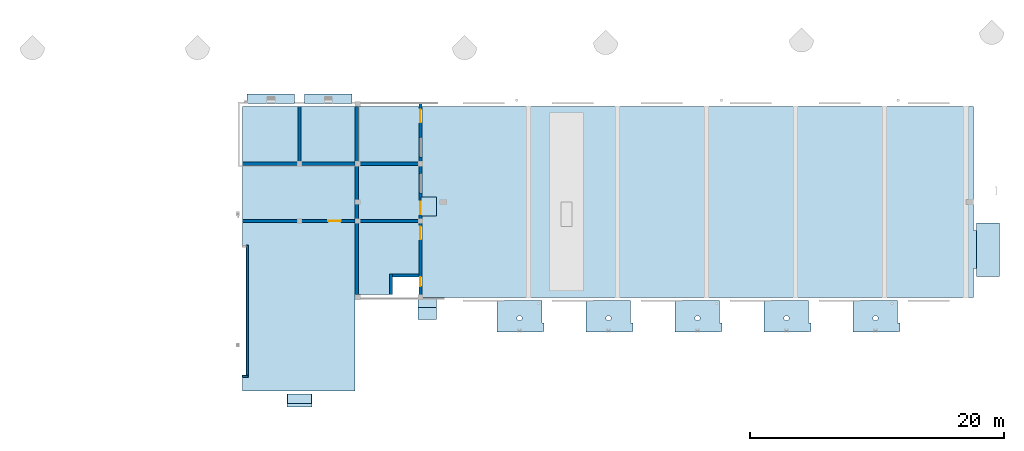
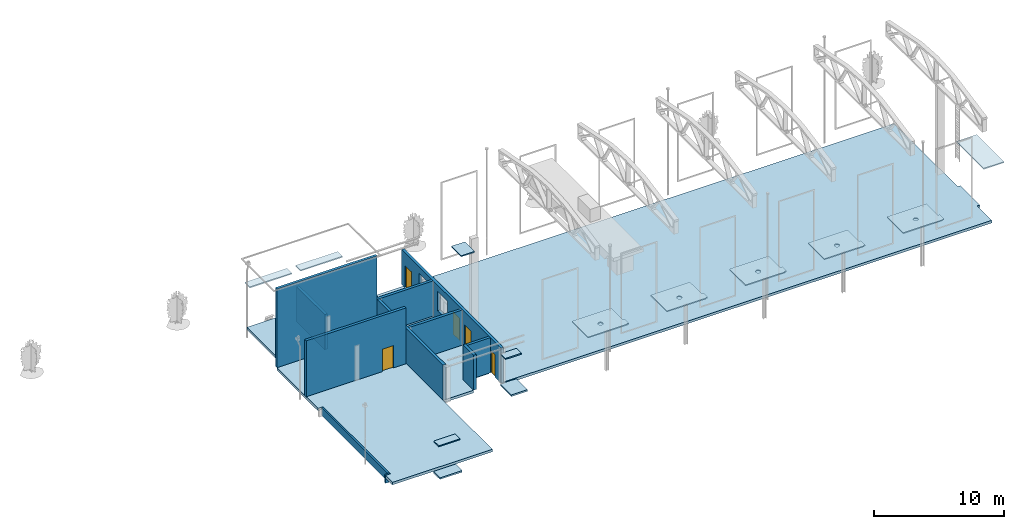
# One storey, part 3 of 14: 17 slabs, 11 walls, 5 doors, 13 openings.
"""IFC2X3 building model written with IfcOpenShell, lengths in millimetres."""

from ifc_helpers import new_model, entity, si_unit, converted_unit, derived_unit, direction, frame, frame_2d, origin, origin_2d_with_axis, place, context, subcontext, project, spatial, polyline, rectangle, circle, outline, extrude, source, transform, mapped, material, material_list, layer, layer_set, layer_usage, type_object, type_shapes, element, fill, save


model = new_model("IFC2X3")

# Units and contexts
model_context = context("Model", 3, precision=0.01, world=origin(), true_north=direction((6.12303176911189e-17, 1.0)))
body_context = subcontext(model_context, "Body", "Model", "MODEL_VIEW")
ifc_project = project(units=[si_unit("LENGTHUNIT", "METRE", prefix="MILLI"), si_unit("AREAUNIT", "SQUARE_METRE"), si_unit("VOLUMEUNIT", "CUBIC_METRE"), converted_unit("PLANEANGLEUNIT", "DEGREE", entity("IfcRatioMeasure", 0.0174532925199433), si_unit("PLANEANGLEUNIT", "RADIAN"), dimensions=[0, 0, 0, 0, 0, 0, 0]), si_unit("MASSUNIT", "GRAM", prefix="KILO"), derived_unit("MASSDENSITYUNIT", [(si_unit("MASSUNIT", "GRAM", prefix="KILO"), 1), (si_unit("LENGTHUNIT", "METRE"), -3)]), si_unit("TIMEUNIT", "SECOND"), si_unit("FREQUENCYUNIT", "HERTZ"), si_unit("THERMODYNAMICTEMPERATUREUNIT", "DEGREE_CELSIUS"), derived_unit("THERMALTRANSMITTANCEUNIT", [(si_unit("MASSUNIT", "GRAM", prefix="KILO"), 1), (si_unit("THERMODYNAMICTEMPERATUREUNIT", "KELVIN"), -1), (si_unit("TIMEUNIT", "SECOND"), -3)]), derived_unit("VOLUMETRICFLOWRATEUNIT", [(si_unit("LENGTHUNIT", "METRE"), 3), (si_unit("TIMEUNIT", "SECOND"), -1)]), si_unit("ELECTRICCURRENTUNIT", "AMPERE"), si_unit("ELECTRICVOLTAGEUNIT", "VOLT"), si_unit("POWERUNIT", "WATT"), si_unit("FORCEUNIT", "NEWTON", prefix="KILO"), si_unit("ILLUMINANCEUNIT", "LUX"), si_unit("LUMINOUSFLUXUNIT", "LUMEN"), si_unit("LUMINOUSINTENSITYUNIT", "CANDELA"), derived_unit("USERDEFINED", [(si_unit("MASSUNIT", "GRAM", prefix="KILO"), -1), (si_unit("LENGTHUNIT", "METRE"), -2), (si_unit("TIMEUNIT", "SECOND"), 3), (si_unit("LUMINOUSFLUXUNIT", "LUMEN"), 1)]), derived_unit("LINEARVELOCITYUNIT", [(si_unit("LENGTHUNIT", "METRE"), 1), (si_unit("TIMEUNIT", "SECOND"), -1)]), si_unit("PRESSUREUNIT", "PASCAL"), derived_unit("USERDEFINED", [(si_unit("LENGTHUNIT", "METRE"), -2), (si_unit("MASSUNIT", "GRAM", prefix="KILO"), 1), (si_unit("TIMEUNIT", "SECOND"), -2)])], contexts=[model_context])

# Site, building, storey
site_placement = place(None, origin())
site = spatial("IfcSite", under=ifc_project, at=site_placement, Name="表面", CompositionType="ELEMENT")
building_placement = place(site_placement, origin())
building = spatial("IfcBuilding", under=site, at=building_placement, CompositionType="ELEMENT")
storey_placement = place(building_placement, origin())
storey = spatial("IfcBuildingStorey", under=building, at=storey_placement, Name="±0.000", CompositionType="ELEMENT", Elevation=0.0)

# Slabs
ifc_material_1 = material(Name="C_砼-沙/水泥找平")
ifc_layer_1 = layer(ifc_material_1, 50.0)
ifc_material_2 = material(Name="C_砼-加气砌块")
ifc_layer_2 = layer(ifc_material_2, 70.0)
ifc_material_3 = material(Name="C_混凝土 - 钢筋混凝土 - 密集")
ifc_layer_3 = layer(ifc_material_3, 120.0)
ifc_layer_set_1 = layer_set([ifc_layer_1, ifc_layer_2, ifc_layer_3], Name="楼板:常规 240 - 50+70+120")
ifc_layer_usage_1 = layer_usage(ifc_layer_set_1, "AXIS3", "POSITIVE", 0.0)
slab_1_placement = place(storey_placement, origin())
element("IfcSlab", 1, at=slab_1_placement, inside=storey, material=ifc_layer_usage_1, Name="楼板:常规 240 - 50+70+120", ObjectType="楼板:常规 240 - 50+70+120", PredefinedType="FLOOR", context=body_context, shape_type="SweptSolid", body=[
    extrude(rectangle(XDim=4380.00000000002, YDim=8879.99999999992, at=frame_2d((0.0, -4.54747350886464e-12), x_axis=(1.0, 0.0))), frame((-43088.798781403, 13419.6974073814, 1000.0), z_axis=(0.0, 0.0, -1.0), x_axis=(0.0, 1.0, 0.0)), (0.0, 0.0, 1.0), 240.0),
])
ifc_layer_usage_2 = layer_usage(ifc_layer_set_1, "AXIS3", "POSITIVE", 0.0)
slab_2_placement = place(storey_placement, origin())
element("IfcSlab", 2, at=slab_2_placement, inside=storey, material=ifc_layer_usage_2, Name="楼板:常规 240 - 50+70+120", ObjectType="楼板:常规 240 - 50+70+120", PredefinedType="FLOOR", context=body_context, shape_type="SweptSolid", body=[
    extrude(rectangle(XDim=4380.00000000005, YDim=4760.00000000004, at=frame_2d((-6.59383658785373e-12, 2.04636307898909e-12), x_axis=(1.0, 0.0))), frame((-36028.798781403, 13419.6974073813, 0.0), z_axis=(0.0, 0.0, -1.0), x_axis=(0.0, 1.0, 0.0)), (0.0, 0.0, 1.0), 240.0),
])
ifc_layer_usage_3 = layer_usage(ifc_layer_set_1, "AXIS3", "POSITIVE", 0.0)
slab_3_placement = place(storey_placement, origin())
element("IfcSlab", 3, at=slab_3_placement, inside=storey, material=ifc_layer_usage_3, Name="楼板:常规 240 - 50+70+120", ObjectType="楼板:常规 240 - 50+70+120", PredefinedType="FLOOR", context=body_context, shape_type="SweptSolid", body=[
    extrude(outline(polyline([(3613.33161497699, -5798.3332687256), (9913.33367700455, -5798.3332687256), (9913.33367700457, 8081.66673127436), (1353.33367700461, 8081.66673127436), (1353.33367700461, 5781.66673127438), (-266.666322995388, 5781.66673127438), (-266.666322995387, 3081.66673127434), (-7846.66632299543, 3081.66673127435), (-7846.66632299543, -5798.33326872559), (-6766.66632299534, -5798.33326872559), (-6766.66632299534, -5348.33365637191), (3613.33161497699, -5348.33365637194), (3613.33161497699, -5798.3332687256)])), frame((-41730.4655126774, 1076.36373037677, 0.0), z_axis=(0.0, 0.0, -1.0), x_axis=(0.0, 1.0, 0.0)), (0.0, 0.0, 1.0), 240.0),
])
ifc_layer_usage_4 = layer_usage(ifc_layer_set_1, "AXIS3", "POSITIVE", 0.0)
slab_4_placement = place(storey_placement, origin())
element("IfcSlab", 4, at=slab_4_placement, inside=storey, material=ifc_layer_usage_4, Name="楼板:常规 240 - 50+70+120", ObjectType="楼板:常规 240 - 50+70+120", PredefinedType="FLOOR", context=body_context, shape_type="SweptSolid", body=[
    extrude(outline(polyline([(-5625.0, -32595.0), (9375.0, -32595.0), (9375.0, 10785.0), (-375.0, 10785.0), (-375.0, 11025.0), (-3375.0, 11025.0), (-3375.0, 10785.0), (-5625.0, 10785.0), (-5625.0, -32595.0)])), frame((-813.798781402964, 6234.69740738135, 0.0), z_axis=(0.0, 0.0, -1.0), x_axis=(0.0, 1.0, 0.0)), (0.0, 0.0, 1.0), 240.0),
])
ifc_layer_4 = layer(ifc_material_1, 20.0)
ifc_layer_5 = layer(ifc_material_3, 80.0)
ifc_layer_set_2 = layer_set([ifc_layer_4, ifc_layer_5], Name="楼板:室外雨篷")
ifc_layer_usage_5 = layer_usage(ifc_layer_set_2, "AXIS3", "POSITIVE", 0.0)
slab_5_placement = place(storey_placement, origin())
element("IfcSlab", 5, at=slab_5_placement, inside=storey, material=ifc_layer_usage_5, Name="楼板:室外雨篷", ObjectType="楼板:室外雨篷", PredefinedType="FLOOR", context=body_context, shape_type="SweptSolid", body=[
    extrude(rectangle(XDim=744.999999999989, YDim=3740.0, at=frame_2d((1.08002495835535e-12, 0.0), x_axis=(1.0, 0.0))), frame((-45278.798781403, 16222.1974073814, 4500.0), z_axis=(0.0, 0.0, -1.0), x_axis=(0.0, 1.0, 0.0)), (0.0, 0.0, 1.0), 100.0),
])
ifc_layer_usage_6 = layer_usage(ifc_layer_set_2, "AXIS3", "POSITIVE", 0.0)
slab_6_placement = place(storey_placement, origin())
element("IfcSlab", 6, at=slab_6_placement, inside=storey, material=ifc_layer_usage_6, Name="楼板:室外雨篷", ObjectType="楼板:室外雨篷", PredefinedType="FLOOR", context=body_context, shape_type="SweptSolid", body=[
    extrude(rectangle(XDim=744.999999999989, YDim=3740.0, at=frame_2d((1.08002495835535e-12, 0.0), x_axis=(1.0, 0.0))), frame((-40779.7988817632, 16222.1974073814, 4500.0), z_axis=(0.0, 0.0, -1.0), x_axis=(0.0, 1.0, 0.0)), (0.0, 0.0, 1.0), 100.0),
])
ifc_material_4 = material(Name="C_保温-聚苯")
ifc_layer_6 = layer(ifc_material_4, 30.0)
ifc_material_5 = material(Name="C_混凝土 - 轻集料混凝土 - 密集")
ifc_layer_7 = layer(ifc_material_5, 120.0)
ifc_layer_set_3 = layer_set([ifc_layer_6, ifc_layer_7], Name="楼板:C 150 - 平台 30+120")
ifc_layer_usage_7 = layer_usage(ifc_layer_set_3, "AXIS3", "POSITIVE", 0.0)
slab_7_placement = place(storey_placement, origin())
element("IfcSlab", 7, at=slab_7_placement, inside=storey, material=ifc_layer_usage_7, Name="楼板:C 150 - 平台 30+120", ObjectType="楼板:C 150 - 平台 30+120", PredefinedType="FLOOR", context=body_context, shape_type="SweptSolid", body=[
    extrude(rectangle(XDim=999.999999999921, YDim=1968.06228355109, at=frame_2d((5.40012479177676e-13, 0.0), x_axis=(1.0, 0.0))), frame((-43039.1642990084, -7510.30259261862, -50.0), z_axis=(0.0, 0.0, -1.0), x_axis=(0.0, 1.0, 0.0)), (0.0, 0.0, 1.0), 150.0),
])
ifc_layer_usage_8 = layer_usage(ifc_layer_set_2, "AXIS3", "POSITIVE", 0.0)
slab_8_placement = place(storey_placement, origin())
element("IfcSlab", 8, at=slab_8_placement, inside=storey, material=ifc_layer_usage_8, Name="楼板:室外雨篷", ObjectType="楼板:室外雨篷", PredefinedType="FLOOR", context=body_context, shape_type="SweptSolid", body=[
    extrude(rectangle(XDim=750.0, YDim=1900.0, at=frame_2d((5.40012479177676e-13, 0.0), x_axis=(1.0, 0.0))), frame((-43034.9676060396, -7385.30259261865, 2800.0), z_axis=(0.0, 0.0, -1.0), x_axis=(0.0, 1.0, 0.0)), (0.0, 0.0, 1.0), 100.0),
])
ifc_layer_usage_9 = layer_usage(ifc_layer_set_3, "AXIS3", "POSITIVE", 0.0)
slab_9_placement = place(storey_placement, origin())
element("IfcSlab", 9, at=slab_9_placement, inside=storey, material=ifc_layer_usage_9, Name="楼板:C 150 - 平台 30+120", ObjectType="楼板:C 150 - 平台 30+120", PredefinedType="FLOOR", context=body_context, shape_type="SweptSolid", body=[
    extrude(rectangle(XDim=1700.0, YDim=1440.00029485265, at=origin_2d_with_axis()), frame((-32988.7989288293, -280.302592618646, -50.0), z_axis=(0.0, 0.0, -1.0), x_axis=(0.0, 1.0, 0.0)), (0.0, 0.0, 1.0), 150.0),
])
ifc_layer_usage_10 = layer_usage(ifc_layer_set_2, "AXIS3", "POSITIVE", 0.0)
slab_10_placement = place(storey_placement, origin())
element("IfcSlab", 10, at=slab_10_placement, inside=storey, material=ifc_layer_usage_10, Name="楼板:室外雨篷", ObjectType="楼板:室外雨篷", PredefinedType="FLOOR", context=body_context, shape_type="SweptSolid", body=[
    extrude(rectangle(XDim=750.0, YDim=1440.00029485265, at=origin_2d_with_axis()), frame((-32988.7989288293, 194.697407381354, 2800.0), z_axis=(0.0, 0.0, -1.0), x_axis=(0.0, 1.0, 0.0)), (0.0, 0.0, 1.0), 100.0),
])

# Slab, opening
ifc_layer_usage_11 = layer_usage(ifc_layer_set_2, "AXIS3", "POSITIVE", 0.0)
slab_11_placement = place(storey_placement, frame((-27479.1764764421, -2130.09994881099, 3700.0)))
slab_11 = element("IfcSlab", 11, at=slab_11_placement, inside=storey, material=ifc_layer_usage_11, Name="楼板:室外雨篷", ObjectType="楼板:室外雨篷", PredefinedType="FLOOR", context=body_context, shape_type="SweptSolid", body=[
    extrude(outline(polyline([(-1665.1888475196, -1249.89867809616), (1835.18884751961, -1249.89867809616), (1835.18884751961, 1249.89867809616), (-1665.1888475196, 1249.89867809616), (-1665.1888475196, -529.898678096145), (-1835.18884751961, -529.898678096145), (-1835.18884751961, -1189.89867809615), (-1665.1888475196, -1189.89867809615), (-1665.1888475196, -1249.89867809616)])), frame((1835.18884751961, 1249.89867809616, 100.0), z_axis=(0.0, 0.0, -1.0), x_axis=(-1.0, 0.0, 0.0)), (0.0, 0.0, 1.0), 100.0),
])
opening_1_placement = place(slab_11_placement, frame((1750.0, 1099.79735619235, 100.0)))
element("IfcOpeningElement", 12, at=opening_1_placement, cuts=slab_11, Name="楼板:室外雨篷:2", ObjectType="Opening", context=body_context, shape_type="SweptSolid", body=[
    extrude(circle(Radius=199.999999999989, at=origin_2d_with_axis()), frame((0.0, 0.0, 0.0), z_axis=(0.0, 0.0, -1.0), x_axis=(1.0, 0.0, 0.0)), (0.0, 0.0, 1.0), 100.0),
])

ifc_layer_usage_12 = layer_usage(ifc_layer_set_2, "AXIS3", "POSITIVE", 0.0)
slab_12_placement = place(storey_placement, frame((-20479.1764764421, -2130.09994881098, 3700.0)))
slab_12 = element("IfcSlab", 13, at=slab_12_placement, inside=storey, material=ifc_layer_usage_12, Name="楼板:室外雨篷", ObjectType="楼板:室外雨篷", PredefinedType="FLOOR", context=body_context, shape_type="SweptSolid", body=[
    extrude(outline(polyline([(-1665.1888475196, -1249.89867809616), (1835.18884751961, -1249.89867809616), (1835.18884751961, 1249.89867809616), (-1665.1888475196, 1249.89867809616), (-1665.1888475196, -529.898678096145), (-1835.18884751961, -529.898678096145), (-1835.18884751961, -1189.89867809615), (-1665.1888475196, -1189.89867809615), (-1665.1888475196, -1249.89867809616)])), frame((1835.18884751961, 1249.89867809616, 100.0), z_axis=(0.0, 0.0, -1.0), x_axis=(-1.0, 0.0, 0.0)), (0.0, 0.0, 1.0), 100.0),
])
opening_2_placement = place(slab_12_placement, frame((1750.0, 1099.79735619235, 100.0)))
element("IfcOpeningElement", 14, at=opening_2_placement, cuts=slab_12, Name="楼板:室外雨篷:2", ObjectType="Opening", context=body_context, shape_type="SweptSolid", body=[
    extrude(circle(Radius=199.999999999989, at=origin_2d_with_axis()), frame((0.0, 0.0, 0.0), z_axis=(0.0, 0.0, -1.0), x_axis=(1.0, 0.0, 0.0)), (0.0, 0.0, 1.0), 100.0),
])

ifc_layer_usage_13 = layer_usage(ifc_layer_set_2, "AXIS3", "POSITIVE", 0.0)
slab_13_placement = place(storey_placement, frame((-13479.176476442, -2130.09994881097, 3700.0)))
slab_13 = element("IfcSlab", 15, at=slab_13_placement, inside=storey, material=ifc_layer_usage_13, Name="楼板:室外雨篷", ObjectType="楼板:室外雨篷", PredefinedType="FLOOR", context=body_context, shape_type="SweptSolid", body=[
    extrude(outline(polyline([(-1665.1888475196, -1249.89867809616), (1835.18884751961, -1249.89867809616), (1835.18884751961, 1249.89867809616), (-1665.1888475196, 1249.89867809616), (-1665.1888475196, -529.898678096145), (-1835.18884751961, -529.898678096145), (-1835.18884751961, -1189.89867809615), (-1665.1888475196, -1189.89867809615), (-1665.1888475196, -1249.89867809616)])), frame((1835.18884751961, 1249.89867809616, 100.0), z_axis=(0.0, 0.0, -1.0), x_axis=(-1.0, 0.0, 0.0)), (0.0, 0.0, 1.0), 100.0),
])
opening_3_placement = place(slab_13_placement, frame((1750.0, 1099.79735619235, 100.0)))
element("IfcOpeningElement", 16, at=opening_3_placement, cuts=slab_13, Name="楼板:室外雨篷:2", ObjectType="Opening", context=body_context, shape_type="SweptSolid", body=[
    extrude(circle(Radius=199.999999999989, at=origin_2d_with_axis()), frame((0.0, 0.0, 0.0), z_axis=(0.0, 0.0, -1.0), x_axis=(1.0, 0.0, 0.0)), (0.0, 0.0, 1.0), 100.0),
])

ifc_layer_usage_14 = layer_usage(ifc_layer_set_2, "AXIS3", "POSITIVE", 0.0)
slab_14_placement = place(storey_placement, frame((-6479.1764764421, -2130.09994881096, 3700.0)))
slab_14 = element("IfcSlab", 17, at=slab_14_placement, inside=storey, material=ifc_layer_usage_14, Name="楼板:室外雨篷", ObjectType="楼板:室外雨篷", PredefinedType="FLOOR", context=body_context, shape_type="SweptSolid", body=[
    extrude(outline(polyline([(-1665.1888475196, -1249.89867809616), (1835.18884751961, -1249.89867809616), (1835.18884751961, 1249.89867809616), (-1665.1888475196, 1249.89867809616), (-1665.1888475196, -529.898678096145), (-1835.18884751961, -529.898678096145), (-1835.18884751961, -1189.89867809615), (-1665.1888475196, -1189.89867809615), (-1665.1888475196, -1249.89867809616)])), frame((1835.18884751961, 1249.89867809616, 100.0), z_axis=(0.0, 0.0, -1.0), x_axis=(-1.0, 0.0, 0.0)), (0.0, 0.0, 1.0), 100.0),
])
opening_4_placement = place(slab_14_placement, frame((1750.0, 1099.79735619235, 100.0)))
element("IfcOpeningElement", 18, at=opening_4_placement, cuts=slab_14, Name="楼板:室外雨篷:2", ObjectType="Opening", context=body_context, shape_type="SweptSolid", body=[
    extrude(circle(Radius=199.999999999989, at=origin_2d_with_axis()), frame((0.0, 0.0, 0.0), z_axis=(0.0, 0.0, -1.0), x_axis=(1.0, 0.0, 0.0)), (0.0, 0.0, 1.0), 100.0),
])

ifc_layer_usage_15 = layer_usage(ifc_layer_set_2, "AXIS3", "POSITIVE", 0.0)
slab_15_placement = place(storey_placement, frame((520.823523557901, -2130.09994881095, 3700.0)))
slab_15 = element("IfcSlab", 19, at=slab_15_placement, inside=storey, material=ifc_layer_usage_15, Name="楼板:室外雨篷", ObjectType="楼板:室外雨篷", PredefinedType="FLOOR", context=body_context, shape_type="SweptSolid", body=[
    extrude(outline(polyline([(-1665.1888475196, -1249.89867809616), (1835.18884751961, -1249.89867809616), (1835.18884751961, 1249.89867809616), (-1665.1888475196, 1249.89867809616), (-1665.1888475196, -529.898678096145), (-1835.18884751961, -529.898678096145), (-1835.18884751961, -1189.89867809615), (-1665.1888475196, -1189.89867809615), (-1665.1888475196, -1249.89867809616)])), frame((1835.18884751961, 1249.89867809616, 100.0), z_axis=(0.0, 0.0, -1.0), x_axis=(-1.0, 0.0, 0.0)), (0.0, 0.0, 1.0), 100.0),
])
opening_5_placement = place(slab_15_placement, frame((1750.0, 1099.79735619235, 100.0)))
element("IfcOpeningElement", 20, at=opening_5_placement, cuts=slab_15, Name="楼板:室外雨篷:2", ObjectType="Opening", context=body_context, shape_type="SweptSolid", body=[
    extrude(circle(Radius=199.999999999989, at=origin_2d_with_axis()), frame((0.0, 0.0, 0.0), z_axis=(0.0, 0.0, -1.0), x_axis=(1.0, 0.0, 0.0)), (0.0, 0.0, 1.0), 100.0),
])

# Slabs
ifc_layer_usage_16 = layer_usage(ifc_layer_set_2, "AXIS3", "POSITIVE", 0.0)
slab_16_placement = place(storey_placement, origin())
element("IfcSlab", 21, at=slab_16_placement, inside=storey, material=ifc_layer_usage_16, Name="楼板:室外雨篷", ObjectType="楼板:室外雨篷", PredefinedType="FLOOR", context=body_context, shape_type="SweptSolid", body=[
    extrude(rectangle(XDim=4200.00000000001, YDim=1800.00000000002, at=frame_2d((4.54747350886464e-13, 0.0), x_axis=(1.0, 0.0))), frame((11111.201218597, 4359.69740738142, 3800.0), z_axis=(0.0, 0.0, -1.0), x_axis=(0.0, 1.0, 0.0)), (0.0, 0.0, 1.0), 100.0),
])
ifc_layer_usage_17 = layer_usage(ifc_layer_set_2, "AXIS3", "POSITIVE", 0.0)
slab_17_placement = place(storey_placement, origin())
element("IfcSlab", 22, at=slab_17_placement, inside=storey, material=ifc_layer_usage_17, Name="楼板:室外雨篷", ObjectType="楼板:室外雨篷", PredefinedType="FLOOR", context=body_context, shape_type="SweptSolid", body=[
    extrude(rectangle(XDim=1500.0, YDim=1200.0, at=frame_2d((-5.11590769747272e-13, -2.1600499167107e-12), x_axis=(1.0, 0.0))), frame((-32868.798781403, 7757.08428378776, 8000.0), z_axis=(0.0, 0.0, -1.0), x_axis=(0.0, 1.0, 0.0)), (0.0, 0.0, 1.0), 100.0),
])

# Wall, openings, doors
ifc_material_6 = material(Name="砖石建筑 - 砖")
ifc_layer_8 = layer(ifc_material_6, 240.0)
ifc_layer_set_4 = layer_set([ifc_layer_8], Name="基本墙:内砖墙240mm")
ifc_layer_usage_18 = layer_usage(ifc_layer_set_4, "AXIS2", "NEGATIVE", 120.0)
wall_type_1 = type_object("IfcWallType", Name="基本墙:内砖墙240mm", PredefinedType="STANDARD", material=ifc_layer_set_4)
wall_1_placement = place(storey_placement, frame((-33528.798781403, 15849.6974073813, 0.0), z_axis=(0.0, 0.0, 1.0), x_axis=(0.0, -1.0, 0.0)))
wall_1 = element("IfcWallStandardCase", 23, at=wall_1_placement, inside=storey, type_object=wall_type_1, material=ifc_layer_usage_18, Name="基本墙:内砖墙240mm", ObjectType="基本墙:内砖墙240mm", context=body_context, shape_type="SweptSolid", body=[
    extrude(rectangle(XDim=15280.0, YDim=239.999999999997, at=frame_2d((7639.99999999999, 2.34479102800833e-13), x_axis=(-1.0, 0.0))), origin(), (0.0, 0.0, 1.0), 3300.0),
])
opening_6_placement = place(wall_1_placement, frame((7720.0, -120.0, 0.0)))
opening_6 = element("IfcOpeningElement", 24, at=opening_6_placement, cuts=wall_1, Name="单开门:M5:1", ObjectType="Opening", context=body_context, shape_type="SweptSolid", body=[
    extrude(rectangle(XDim=2100.0, YDim=1000.0, at=frame_2d((1050.0, 500.0), x_axis=(1.0, 0.0))), frame((0.0, 0.0, 0.0), z_axis=(0.0, 1.0, 0.0), x_axis=(0.0, 0.0, 1.0)), (0.0, 0.0, 1.0), 240.0),
])
opening_7_placement = place(wall_1_placement, frame((1490.0, 120.0, 0.0)))
opening_7 = element("IfcOpeningElement", 25, at=opening_7_placement, cuts=wall_1, Name="单开门:M5:1", ObjectType="Opening", context=body_context, shape_type="SweptSolid", body=[
    extrude(rectangle(XDim=2100.0, YDim=1000.0, at=frame_2d((1050.0, 500.0), x_axis=(1.0, 0.0))), frame((0.0, 0.0, 0.0), z_axis=(0.0, -1.0, 0.0), x_axis=(0.0, 0.0, 1.0)), (0.0, 0.0, 1.0), 240.0),
])
opening_8_placement = place(wall_1_placement, frame((10690.0021645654, 120.0, 0.0)))
opening_8 = element("IfcOpeningElement", 26, at=opening_8_placement, cuts=wall_1, Name="单开门:M5:1", ObjectType="Opening", context=body_context, shape_type="SweptSolid", body=[
    extrude(rectangle(XDim=2100.0, YDim=1000.0, at=frame_2d((1050.0, 500.0), x_axis=(1.0, 0.0))), frame((0.0, 0.0, 0.0), z_axis=(0.0, -1.0, 0.0), x_axis=(0.0, 0.0, 1.0)), (0.0, 0.0, 1.0), 240.0),
])
opening_9_placement = place(wall_1_placement, frame((14360.0, 120.0, 0.0)))
opening_9 = element("IfcOpeningElement", 27, at=opening_9_placement, cuts=wall_1, Name="单开门:M7:1", ObjectType="Opening", context=body_context, shape_type="SweptSolid", body=[
    extrude(rectangle(XDim=2100.0, YDim=700.0, at=frame_2d((1050.0, 349.999999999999), x_axis=(1.0, 0.0))), frame((0.0, 0.0, 0.0), z_axis=(0.0, -1.0, 0.0), x_axis=(0.0, 0.0, 1.0)), (0.0, 0.0, 1.0), 240.0),
])
opening_10_placement = place(wall_1_placement, frame((4190.0032002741, 120.0, 900.0)))
element("IfcOpeningElement", 28, at=opening_10_placement, cuts=wall_1, Name="推拉窗（c-9）:推拉窗（c-9）:1", ObjectType="Opening", context=body_context, shape_type="SweptSolid", body=[
    extrude(rectangle(XDim=1800.0, YDim=1500.0, at=frame_2d((899.999999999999, 750.0), x_axis=(1.0, 0.0))), frame((0.0, 0.0, 0.0), z_axis=(0.0, -1.0, 0.0), x_axis=(0.0, 0.0, 1.0)), (0.0, 0.0, 1.0), 240.0),
])
opening_11_placement = place(wall_1_placement, frame((7020.00166128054, 120.0, 900.0)))
element("IfcOpeningElement", 29, at=opening_11_placement, cuts=wall_1, Name="推拉窗（c-9）:推拉窗（c-9）:1", ObjectType="Opening", context=body_context, shape_type="SweptSolid", body=[
    extrude(rectangle(XDim=1800.0, YDim=1500.0, at=frame_2d((899.999999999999, 750.0), x_axis=(1.0, 0.0))), frame((0.0, 0.0, 0.0), z_axis=(0.0, -1.0, 0.0), x_axis=(0.0, 0.0, 1.0)), (0.0, 0.0, 1.0), 240.0),
])
ifc_material_7 = material(Name="塑钢")
ifc_material_8 = material(Name="木质 - 木材")
ifc_material_list_1 = material_list([ifc_material_7, ifc_material_8])
ifc_material_list_2 = material_list([ifc_material_7, ifc_material_8])
door_style_1 = type_object("IfcDoorStyle", Name="M5", ConstructionType="NOTDEFINED", OperationType="SINGLE_SWING_RIGHT", ParameterTakesPrecedence=False, Sizeable=False, material=ifc_material_list_2)
shared_shape_1 = source(origin(), body_context, "Body", "SweptSolid", [
    extrude(outline(polyline([(-1057.5, -500.0), (1042.5, -500.0), (1042.5, -470.0), (-1027.5, -470.0), (-1027.5, 470.0), (1042.5, 470.0), (1042.5, 500.0), (-1057.5, 500.0), (-1057.5, -500.0)])), frame((500.0, 145.0, 1042.5), z_axis=(0.0, -1.0, 0.0), x_axis=(0.0, 0.0, -1.0)), (0.0, 0.0, 1.0), 50.0),
    extrude(rectangle(XDim=940.0, YDim=30.0, at=origin_2d_with_axis()), frame((500.0, 120.0, 0.0)), (0.0, 0.0, 1.0), 2070.0),
])
type_shapes(door_style_1, [shared_shape_1])
door_1_placement = place(opening_6_placement, origin())
door_1 = element("IfcDoor", 30, at=door_1_placement, inside=storey, type_object=door_style_1, material=ifc_material_list_1, Name="单开门:M5", ObjectType="M5", OverallHeight=2100.0, OverallWidth=1000.0, context=body_context, shape_type="MappedRepresentation", body=[
    mapped(shared_shape_1, transform((0.0, 0.0, 0.0), scale=1.0)),
])
fill(opening_6, door_1)
ifc_material_list_3 = material_list([ifc_material_7, ifc_material_8])
door_2_placement = place(opening_7_placement, frame((0.0, 0.0, 0.0), z_axis=(0.0, 0.0, 1.0), x_axis=(-1.0, 0.0, 0.0)))
door_2 = element("IfcDoor", 31, at=door_2_placement, inside=storey, type_object=door_style_1, material=ifc_material_list_3, Name="单开门:M5", ObjectType="M5", OverallHeight=2100.0, OverallWidth=1000.0, context=body_context, shape_type="MappedRepresentation", body=[
    mapped(shared_shape_1, transform((0.0, 0.0, 0.0), scale=1.0)),
])
fill(opening_7, door_2)
ifc_material_list_4 = material_list([ifc_material_7, ifc_material_8])
door_3_placement = place(opening_8_placement, frame((0.0, 0.0, 0.0), z_axis=(0.0, 0.0, 1.0), x_axis=(-1.0, 0.0, 0.0)))
door_3 = element("IfcDoor", 32, at=door_3_placement, inside=storey, type_object=door_style_1, material=ifc_material_list_4, Name="单开门:M5", ObjectType="M5", OverallHeight=2100.0, OverallWidth=1000.0, context=body_context, shape_type="MappedRepresentation", body=[
    mapped(shared_shape_1, transform((0.0, 0.0, 0.0), scale=1.0)),
])
fill(opening_8, door_3)
ifc_material_list_5 = material_list([ifc_material_7, ifc_material_8])
ifc_material_list_6 = material_list([ifc_material_7, ifc_material_8])
door_style_2 = type_object("IfcDoorStyle", Name="M7", ConstructionType="NOTDEFINED", OperationType="SINGLE_SWING_RIGHT", ParameterTakesPrecedence=False, Sizeable=False, material=ifc_material_list_6)
shared_shape_2 = source(origin(), body_context, "Body", "SweptSolid", [
    extrude(outline(polyline([(-1057.5, -350.0), (1042.5, -350.0), (1042.5, -320.0), (-1027.5, -320.0), (-1027.5, 320.0), (1042.5, 320.0), (1042.5, 350.0), (-1057.5, 350.0), (-1057.5, -350.0)])), frame((350.0, 145.0, 1042.5), z_axis=(0.0, -1.0, 0.0), x_axis=(0.0, 0.0, -1.0)), (0.0, 0.0, 1.0), 50.0),
    extrude(rectangle(XDim=640.0, YDim=30.0, at=origin_2d_with_axis()), frame((350.0, 120.0, 0.0)), (0.0, 0.0, 1.0), 2070.0),
])
type_shapes(door_style_2, [shared_shape_2])
door_4_placement = place(opening_9_placement, frame((0.0, 0.0, 0.0), z_axis=(0.0, 0.0, 1.0), x_axis=(-1.0, 0.0, 0.0)))
door_4 = element("IfcDoor", 33, at=door_4_placement, inside=storey, type_object=door_style_2, material=ifc_material_list_5, Name="单开门:M7", ObjectType="M7", OverallHeight=2100.0, OverallWidth=700.0, context=body_context, shape_type="MappedRepresentation", body=[
    mapped(shared_shape_2, transform((0.0, 0.0, 0.0), scale=1.0)),
])
fill(opening_9, door_4)

# Walls
ifc_layer_usage_19 = layer_usage(ifc_layer_set_4, "AXIS2", "NEGATIVE", 120.0)
wall_2_placement = place(storey_placement, frame((-33648.798781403, 6609.6974073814, 0.0), z_axis=(0.0, 0.0, 1.0), x_axis=(-1.0, 0.0, 0.0)))
element("IfcWallStandardCase", 34, at=wall_2_placement, inside=storey, type_object=wall_type_1, material=ifc_layer_usage_19, Name="基本墙:内砖墙240mm", ObjectType="基本墙:内砖墙240mm", context=body_context, shape_type="SweptSolid", body=[
    extrude(rectangle(XDim=4760.00000000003, YDim=240.0, at=frame_2d((2380.00000000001, 2.8421709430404e-14), x_axis=(-1.0, 0.0))), origin(), (0.0, 0.0, 1.0), 3300.0),
])
ifc_layer_usage_20 = layer_usage(ifc_layer_set_4, "AXIS2", "NEGATIVE", 120.0)
wall_3_placement = place(storey_placement, frame((-35828.798781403, 809.697407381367, 0.0), z_axis=(0.0, 0.0, 1.0), x_axis=(0.0, 1.0, 0.0)))
element("IfcWallStandardCase", 35, at=wall_3_placement, inside=storey, type_object=wall_type_1, material=ifc_layer_usage_20, Name="基本墙:内砖墙240mm", ObjectType="基本墙:内砖墙240mm", context=body_context, shape_type="SweptSolid", body=[
    extrude(rectangle(XDim=1620.0, YDim=239.999999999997, at=frame_2d((809.999999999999, 0.0), x_axis=(-1.0, 0.0))), origin(), (0.0, 0.0, 1.0), 3300.0),
])
ifc_layer_usage_21 = layer_usage(ifc_layer_set_4, "AXIS2", "NEGATIVE", 120.0)
wall_4_placement = place(storey_placement, frame((-35708.798781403, 2309.69740738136, 0.0)))
element("IfcWallStandardCase", 36, at=wall_4_placement, inside=storey, type_object=wall_type_1, material=ifc_layer_usage_21, Name="基本墙:内砖墙240mm", ObjectType="基本墙:内砖墙240mm", context=body_context, shape_type="SweptSolid", body=[
    extrude(rectangle(XDim=2059.99999999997, YDim=240.0, at=frame_2d((1029.99999999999, -1.06581410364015e-13), x_axis=(-1.0, 0.0))), origin(), (0.0, 0.0, 1.0), 3300.0),
])
ifc_layer_usage_22 = layer_usage(ifc_layer_set_4, "AXIS2", "POSITIVE", -120.0)
wall_5_placement = place(storey_placement, frame((-47528.7987814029, 11109.6974073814, 0.0)))
element("IfcWallStandardCase", 37, at=wall_5_placement, inside=storey, type_object=wall_type_1, material=ifc_layer_usage_22, Name="基本墙:内砖墙240mm", ObjectType="基本墙:内砖墙240mm", context=body_context, shape_type="SweptSolid", body=[
    extrude(rectangle(XDim=8879.99999999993, YDim=240.000000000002, at=frame_2d((4439.99999999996, 1.56319401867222e-13), x_axis=(-1.0, 0.0))), origin(), (0.0, 0.0, 1.0), 7390.0),
])
ifc_layer_usage_23 = layer_usage(ifc_layer_set_4, "AXIS2", "NEGATIVE", 120.0)
wall_6_placement = place(storey_placement, frame((-43028.798781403, 15609.6974073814, 0.0), z_axis=(0.0, 0.0, 1.0), x_axis=(0.0, -1.0, 0.0)))
element("IfcWallStandardCase", 38, at=wall_6_placement, inside=storey, type_object=wall_type_1, material=ifc_layer_usage_23, Name="基本墙:内砖墙240mm", ObjectType="基本墙:内砖墙240mm", context=body_context, shape_type="SweptSolid", body=[
    extrude(rectangle(XDim=4380.00000000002, YDim=239.999999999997, at=frame_2d((2190.00000000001, 8.5265128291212e-14), x_axis=(-1.0, 0.0))), origin(), (0.0, 0.0, 1.0), 3300.0),
])

# Wall, opening
ifc_layer_usage_24 = layer_usage(ifc_layer_set_4, "AXIS2", "NEGATIVE", 120.0)
wall_7_placement = place(storey_placement, frame((-38528.798781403, 15609.6974073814, 0.0), z_axis=(0.0, 0.0, 1.0), x_axis=(0.0, -1.0, 0.0)))
wall_7 = element("IfcWallStandardCase", 39, at=wall_7_placement, inside=storey, type_object=wall_type_1, material=ifc_layer_usage_24, Name="基本墙:内砖墙240mm", ObjectType="基本墙:内砖墙240mm", context=body_context, shape_type="SweptSolid", body=[
    extrude(rectangle(XDim=14800.0, YDim=239.999999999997, at=frame_2d((7399.99999999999, 9.9475983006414e-14), x_axis=(-1.0, 0.0))), origin(), (0.0, 0.0, 1.0), 3300.0),
])
opening_12_placement = place(storey_placement, frame((-38528.798781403, 15609.6974073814, 0.0), z_axis=(0.0, 0.0, 1.0), x_axis=(0.0, -1.0, 0.0)))
element("IfcOpeningElement", 40, at=opening_12_placement, cuts=wall_7, Name="基本墙:内砖墙240mm:1", ObjectType="Opening", context=body_context, shape_type="SweptSolid", body=[
    extrude(rectangle(XDim=3300.0, YDim=240.000000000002, at=frame_2d((0.0, -2.16715534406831e-12), x_axis=(1.0, 0.0))), frame((4620.0, 0.0, 1650.0), z_axis=(-1.0, 0.0, 0.0), x_axis=(0.0, 0.0, 1.0)), (0.0, 0.0, 1.0), 240.0),
])

# Wall
ifc_layer_usage_25 = layer_usage(ifc_layer_set_4, "AXIS2", "NEGATIVE", 120.0)
wall_8_placement = place(storey_placement, frame((-47528.7987814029, 11109.6974073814, 0.0)))
element("IfcWallStandardCase", 41, at=wall_8_placement, inside=storey, type_object=wall_type_1, material=ifc_layer_usage_25, Name="基本墙:内砖墙240mm", ObjectType="基本墙:内砖墙240mm", context=body_context, shape_type="SweptSolid", body=[
    extrude(rectangle(XDim=13880.0, YDim=240.000000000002, at=frame_2d((6939.99999999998, -4.9737991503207e-13), x_axis=(-1.0, 0.0))), origin(), (0.0, 0.0, 1.0), 3300.0),
])

# Wall, opening, door
ifc_layer_usage_26 = layer_usage(ifc_layer_set_4, "AXIS2", "NEGATIVE", 120.0)
wall_9_placement = place(storey_placement, frame((-38648.798781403, 6609.6974073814, 0.0), z_axis=(0.0, 0.0, 1.0), x_axis=(-1.0, 0.0, 0.0)))
wall_9 = element("IfcWallStandardCase", 42, at=wall_9_placement, inside=storey, type_object=wall_type_1, material=ifc_layer_usage_26, Name="基本墙:内砖墙240mm", ObjectType="基本墙:内砖墙240mm", context=body_context, shape_type="SweptSolid", body=[
    extrude(rectangle(XDim=8879.99999999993, YDim=240.0, at=frame_2d((4439.99999999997, -3.12638803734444e-13), x_axis=(-1.0, 0.0))), origin(), (0.0, 0.0, 1.0), 5250.0),
])
opening_13_placement = place(wall_9_placement, frame((2130.0023715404, 120.0, 0.0)))
opening_13 = element("IfcOpeningElement", 43, at=opening_13_placement, cuts=wall_9, Name="单开门:M5:1", ObjectType="Opening", context=body_context, shape_type="SweptSolid", body=[
    extrude(rectangle(XDim=2100.0, YDim=1000.0, at=frame_2d((1050.0, 500.0), x_axis=(1.0, 0.0))), frame((0.0, 0.0, 0.0), z_axis=(0.0, -1.0, 0.0), x_axis=(0.0, 0.0, 1.0)), (0.0, 0.0, 1.0), 240.0),
])
ifc_material_list_7 = material_list([ifc_material_7, ifc_material_8])
ifc_material_list_8 = material_list([ifc_material_7, ifc_material_8])
door_style_3 = type_object("IfcDoorStyle", Name="M5", ConstructionType="NOTDEFINED", OperationType="SINGLE_SWING_LEFT", ParameterTakesPrecedence=False, Sizeable=False, material=ifc_material_list_8)
shared_shape_3 = source(origin(), body_context, "Body", "SweptSolid", [
    extrude(outline(polyline([(-1057.5, -500.0), (1042.5, -500.0), (1042.5, -470.0), (-1027.5, -470.0), (-1027.5, 470.0), (1042.5, 470.0), (1042.5, 500.0), (-1057.5, 500.0), (-1057.5, -500.0)])), frame((500.0, 95.0, 1042.5), z_axis=(0.0, 1.0, 0.0), x_axis=(0.0, 0.0, -1.0)), (0.0, 0.0, 1.0), 50.0),
    extrude(rectangle(XDim=30.0, YDim=940.0, at=origin_2d_with_axis()), frame((500.0, 120.0, 0.0), z_axis=(0.0, 0.0, 1.0), x_axis=(0.0, 1.0, 0.0)), (0.0, 0.0, 1.0), 2070.0),
])
type_shapes(door_style_3, [shared_shape_3])
door_5_placement = place(opening_13_placement, frame((0.0, 0.0, 0.0), z_axis=(0.0, 0.0, 1.0), x_axis=(-1.0, 0.0, 0.0)))
door_5 = element("IfcDoor", 44, at=door_5_placement, inside=storey, type_object=door_style_3, material=ifc_material_list_7, Name="单开门:M5", ObjectType="M5", OverallHeight=2100.0, OverallWidth=999.999999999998, context=body_context, shape_type="MappedRepresentation", body=[
    mapped(shared_shape_3, transform((0.0, 0.0, 0.0), scale=1.0)),
])
fill(opening_13, door_5)

# Walls
ifc_material_9 = material(Name="C_砼- 水泥焦渣")
ifc_layer_9 = layer(ifc_material_9, 150.0)
ifc_layer_set_5 = layer_set([ifc_layer_9], Name="基本墙:沟壁150")
ifc_layer_usage_27 = layer_usage(ifc_layer_set_5, "AXIS2", "NEGATIVE", 75.0)
wall_type_2 = type_object("IfcWallType", Name="基本墙:沟壁150", PredefinedType="STANDARD", material=ifc_layer_set_5)
wall_10_placement = place(storey_placement, frame((-47528.7987814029, -5615.30259261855, -750.0)))
element("IfcWallStandardCase", 45, at=wall_10_placement, inside=storey, type_object=wall_type_2, material=ifc_layer_usage_27, Name="基本墙:沟壁150", ObjectType="基本墙:沟壁150", context=body_context, shape_type="SweptSolid", body=[
    extrude(rectangle(XDim=449.999612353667, YDim=150.000000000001, at=frame_2d((224.999806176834, -4.9737991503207e-14), x_axis=(-1.0, 0.0))), origin(), (0.0, 0.0, 1.0), 750.0),
])
ifc_layer_usage_28 = layer_usage(ifc_layer_set_5, "AXIS2", "NEGATIVE", 75.0)
wall_11_placement = place(storey_placement, frame((-47153.7991690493, -5540.30259261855, -750.0), z_axis=(0.0, 0.0, 1.0), x_axis=(0.0, 1.0, 0.0)))
element("IfcWallStandardCase", 46, at=wall_11_placement, inside=storey, type_object=wall_type_2, material=ifc_layer_usage_28, Name="基本墙:沟壁150", ObjectType="基本墙:沟壁150", context=body_context, shape_type="SweptSolid", body=[
    extrude(rectangle(XDim=10229.9979379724, YDim=150.000000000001, at=frame_2d((5114.9989689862, 0.0), x_axis=(-1.0, 0.0))), origin(), (0.0, 0.0, 1.0), 750.0),
])

save(model, "model.ifc")
